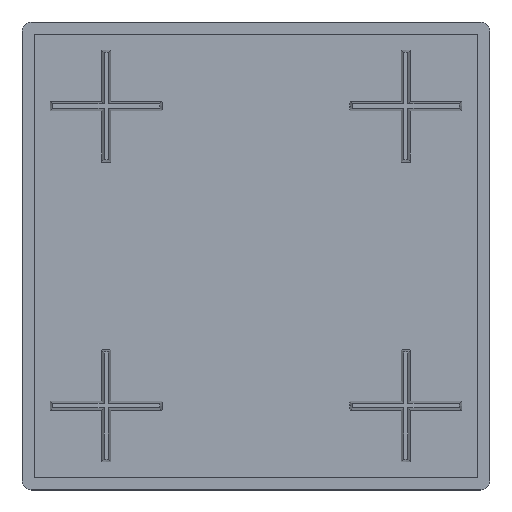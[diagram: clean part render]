
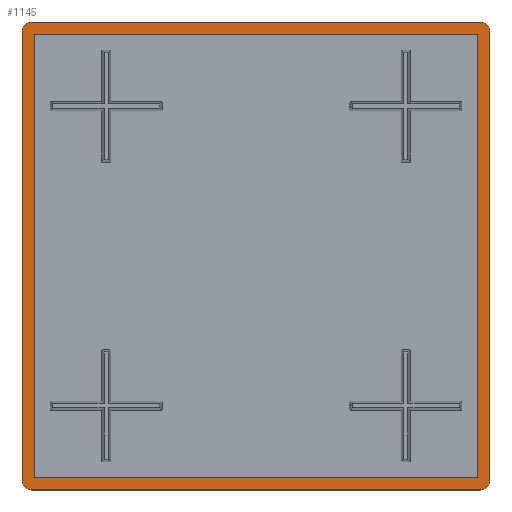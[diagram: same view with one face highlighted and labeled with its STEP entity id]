
A CAD part, top view. The second image highlights one B-rep face of the part: STEP entity #1145.
In plain terms, the highlighted planar face has unit normal (0, 0, 1).
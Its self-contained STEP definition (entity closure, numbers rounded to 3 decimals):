
#14 = CIRCLE ( 'NONE', #2226, 1. ) ;
#43 = DIRECTION ( 'NONE',  ( 0., 1., 0. ) ) ;
#55 = FACE_OUTER_BOUND ( 'NONE', #2089, .T. ) ;
#75 = AXIS2_PLACEMENT_3D ( 'NONE', #2375, #2399, #685 ) ;
#134 = DIRECTION ( 'NONE',  ( 1., 0., 0. ) ) ;
#216 = CARTESIAN_POINT ( 'NONE',  ( 23.7, -23.7, 5. ) ) ;
#284 = VERTEX_POINT ( 'NONE', #2358 ) ;
#288 = CARTESIAN_POINT ( 'NONE',  ( -25., 25., 5. ) ) ;
#311 = CARTESIAN_POINT ( 'NONE',  ( -23.7, 23.7, 5. ) ) ;
#328 = ORIENTED_EDGE ( 'NONE', *, *, #794, .F. ) ;
#403 = ORIENTED_EDGE ( 'NONE', *, *, #2211, .T. ) ;
#411 = LINE ( 'NONE', #216, #1421 ) ;
#413 = CARTESIAN_POINT ( 'NONE',  ( 25., 25., 5. ) ) ;
#420 = EDGE_CURVE ( 'NONE', #2070, #1891, #1179, .T. ) ;
#435 = VECTOR ( 'NONE', #2170, 1000. ) ;
#441 = CARTESIAN_POINT ( 'NONE',  ( -23.7, 23.7, 5. ) ) ;
#458 = CARTESIAN_POINT ( 'NONE',  ( -25., -24., 5. ) ) ;
#467 = DIRECTION ( 'NONE',  ( 1., 0., 0. ) ) ;
#476 = VECTOR ( 'NONE', #467, 1000. ) ;
#499 = CARTESIAN_POINT ( 'NONE',  ( 24., -24., 5. ) ) ;
#503 = CARTESIAN_POINT ( 'NONE',  ( 24., 24., 5. ) ) ;
#511 = ORIENTED_EDGE ( 'NONE', *, *, #420, .T. ) ;
#546 = EDGE_CURVE ( 'NONE', #2257, #1761, #682, .T. ) ;
#561 = EDGE_CURVE ( 'NONE', #1181, #574, #2172, .T. ) ;
#574 = VERTEX_POINT ( 'NONE', #1078 ) ;
#586 = ORIENTED_EDGE ( 'NONE', *, *, #923, .F. ) ;
#592 = CARTESIAN_POINT ( 'NONE',  ( -25., 24., 5. ) ) ;
#617 = DIRECTION ( 'NONE',  ( 0., 1., 0. ) ) ;
#666 = PLANE ( 'NONE',  #979 ) ;
#668 = VERTEX_POINT ( 'NONE', #1694 ) ;
#670 = DIRECTION ( 'NONE',  ( 0., 0., 1. ) ) ;
#681 = CARTESIAN_POINT ( 'NONE',  ( 23.7, -23.7, 5. ) ) ;
#682 = LINE ( 'NONE', #288, #2354 ) ;
#685 = DIRECTION ( 'NONE',  ( 1., 0., 0. ) ) ;
#763 = CARTESIAN_POINT ( 'NONE',  ( 23.7, 23.7, 5. ) ) ;
#773 = LINE ( 'NONE', #1570, #2195 ) ;
#781 = CIRCLE ( 'NONE', #1775, 1. ) ;
#794 = EDGE_CURVE ( 'NONE', #2060, #1181, #773, .T. ) ;
#803 = CARTESIAN_POINT ( 'NONE',  ( 0., 0., 5. ) ) ;
#831 = EDGE_CURVE ( 'NONE', #2360, #2060, #411, .T. ) ;
#856 = ORIENTED_EDGE ( 'NONE', *, *, #949, .T. ) ;
#872 = CIRCLE ( 'NONE', #1581, 1. ) ;
#923 = EDGE_CURVE ( 'NONE', #574, #2360, #1025, .T. ) ;
#939 = ORIENTED_EDGE ( 'NONE', *, *, #1272, .T. ) ;
#949 = EDGE_CURVE ( 'NONE', #1761, #2070, #781, .T. ) ;
#979 = AXIS2_PLACEMENT_3D ( 'NONE', #803, #1335, #2103 ) ;
#1025 = LINE ( 'NONE', #2154, #435 ) ;
#1049 = CARTESIAN_POINT ( 'NONE',  ( -24., -24., 5. ) ) ;
#1061 = DIRECTION ( 'NONE',  ( 1., 0., 0. ) ) ;
#1063 = DIRECTION ( 'NONE',  ( 0., 0., 1. ) ) ;
#1078 = CARTESIAN_POINT ( 'NONE',  ( -23.7, -23.7, 5. ) ) ;
#1145 = ADVANCED_FACE ( 'NONE', ( #1636, #55 ), #666, .T. ) ;
#1166 = CARTESIAN_POINT ( 'NONE',  ( -25., -25., 5. ) ) ;
#1177 = EDGE_CURVE ( 'NONE', #668, #1808, #1560, .T. ) ;
#1179 = LINE ( 'NONE', #1166, #476 ) ;
#1181 = VERTEX_POINT ( 'NONE', #441 ) ;
#1188 = VECTOR ( 'NONE', #617, 1000. ) ;
#1206 = DIRECTION ( 'NONE',  ( -1., 0., 0. ) ) ;
#1272 = EDGE_CURVE ( 'NONE', #1891, #668, #872, .T. ) ;
#1335 = DIRECTION ( 'NONE',  ( 0., 0., 1. ) ) ;
#1395 = CARTESIAN_POINT ( 'NONE',  ( 24., -25., 5. ) ) ;
#1421 = VECTOR ( 'NONE', #43, 1000. ) ;
#1458 = VECTOR ( 'NONE', #2381, 1000. ) ;
#1463 = DIRECTION ( 'NONE',  ( 1., 0., 0. ) ) ;
#1474 = ORIENTED_EDGE ( 'NONE', *, *, #1613, .T. ) ;
#1479 = ORIENTED_EDGE ( 'NONE', *, *, #2361, .T. ) ;
#1489 = CARTESIAN_POINT ( 'NONE',  ( -24., -25., 5. ) ) ;
#1491 = ORIENTED_EDGE ( 'NONE', *, *, #831, .F. ) ;
#1505 = CIRCLE ( 'NONE', #75, 1. ) ;
#1539 = ORIENTED_EDGE ( 'NONE', *, *, #561, .F. ) ;
#1548 = DIRECTION ( 'NONE',  ( -1., 0., 0. ) ) ;
#1560 = LINE ( 'NONE', #2302, #1188 ) ;
#1570 = CARTESIAN_POINT ( 'NONE',  ( 23.7, 23.7, 5. ) ) ;
#1581 = AXIS2_PLACEMENT_3D ( 'NONE', #499, #2043, #1061 ) ;
#1586 = EDGE_LOOP ( 'NONE', ( #586, #1539, #328, #1491 ) ) ;
#1593 = CARTESIAN_POINT ( 'NONE',  ( 25., 24., 5. ) ) ;
#1613 = EDGE_CURVE ( 'NONE', #284, #2257, #1505, .T. ) ;
#1636 = FACE_BOUND ( 'NONE', #1586, .T. ) ;
#1694 = CARTESIAN_POINT ( 'NONE',  ( 25., -24., 5. ) ) ;
#1745 = LINE ( 'NONE', #413, #2385 ) ;
#1761 = VERTEX_POINT ( 'NONE', #458 ) ;
#1775 = AXIS2_PLACEMENT_3D ( 'NONE', #1049, #1063, #134 ) ;
#1808 = VERTEX_POINT ( 'NONE', #1593 ) ;
#1885 = ORIENTED_EDGE ( 'NONE', *, *, #546, .T. ) ;
#1891 = VERTEX_POINT ( 'NONE', #1395 ) ;
#1894 = ORIENTED_EDGE ( 'NONE', *, *, #1177, .T. ) ;
#2017 = CARTESIAN_POINT ( 'NONE',  ( 24., 25., 5. ) ) ;
#2030 = VERTEX_POINT ( 'NONE', #2017 ) ;
#2043 = DIRECTION ( 'NONE',  ( 0., 0., 1. ) ) ;
#2060 = VERTEX_POINT ( 'NONE', #763 ) ;
#2070 = VERTEX_POINT ( 'NONE', #1489 ) ;
#2089 = EDGE_LOOP ( 'NONE', ( #511, #939, #1894, #1479, #403, #1474, #1885, #856 ) ) ;
#2103 = DIRECTION ( 'NONE',  ( 1., 0., 0. ) ) ;
#2154 = CARTESIAN_POINT ( 'NONE',  ( -23.7, -23.7, 5. ) ) ;
#2157 = DIRECTION ( 'NONE',  ( 0., -1., 0. ) ) ;
#2170 = DIRECTION ( 'NONE',  ( 1., 0., 0. ) ) ;
#2172 = LINE ( 'NONE', #311, #1458 ) ;
#2195 = VECTOR ( 'NONE', #1548, 1000. ) ;
#2211 = EDGE_CURVE ( 'NONE', #2030, #284, #1745, .T. ) ;
#2226 = AXIS2_PLACEMENT_3D ( 'NONE', #503, #670, #1463 ) ;
#2257 = VERTEX_POINT ( 'NONE', #592 ) ;
#2302 = CARTESIAN_POINT ( 'NONE',  ( 25., -25., 5. ) ) ;
#2354 = VECTOR ( 'NONE', #2157, 1000. ) ;
#2358 = CARTESIAN_POINT ( 'NONE',  ( -24., 25., 5. ) ) ;
#2360 = VERTEX_POINT ( 'NONE', #681 ) ;
#2361 = EDGE_CURVE ( 'NONE', #1808, #2030, #14, .T. ) ;
#2375 = CARTESIAN_POINT ( 'NONE',  ( -24., 24., 5. ) ) ;
#2381 = DIRECTION ( 'NONE',  ( 0., -1., 0. ) ) ;
#2385 = VECTOR ( 'NONE', #1206, 1000. ) ;
#2399 = DIRECTION ( 'NONE',  ( 0., 0., 1. ) ) ;
